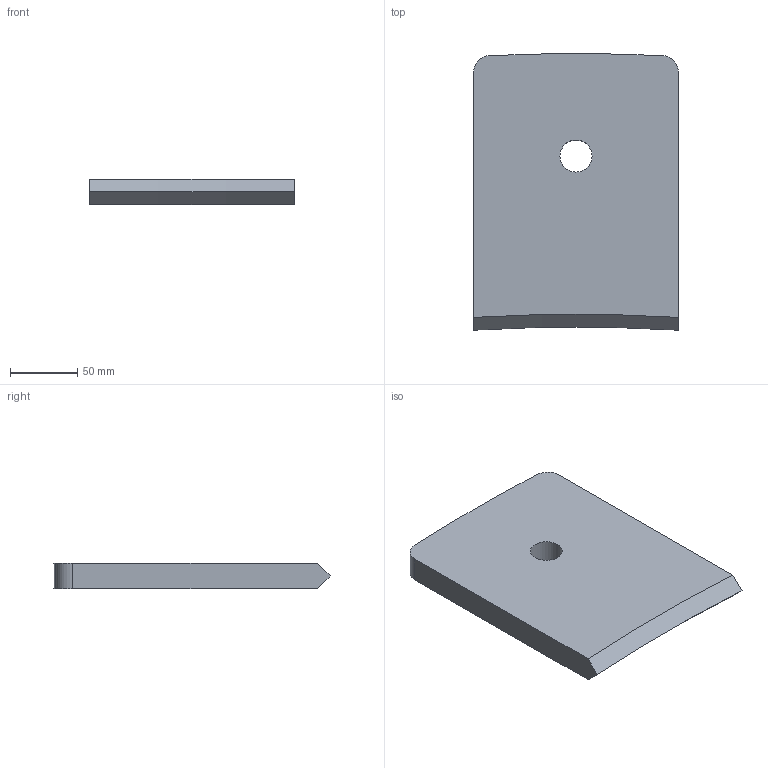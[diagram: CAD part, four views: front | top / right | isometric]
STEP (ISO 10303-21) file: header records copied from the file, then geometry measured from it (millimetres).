
FILE_DESCRIPTION (( 'STEP AP214' ), '1' );
FILE_NAME ('LF2 Lug.STEP', '2025-01-09T19:43:28', ( '' ), ( '' ), 'SwSTEP 2.0', 'SolidWorks 2024', '' );
FILE_SCHEMA (( 'AUTOMOTIVE_DESIGN' ));
Length unit declared in the file: inch
Products named in the file (1): LF2 Lug
Bounding box: 152.4 x 205.53 x 19.05 mm (x, y, z)
Volume: 566956.4 mm3; surface area: 73899 mm2
Topology: 1 solids, 1 shells, 10 faces, 24 edges, 16 vertices
Faces by surface type: cylinder 4, plane 4, cone 2
Full cylindrical faces by diameter (mm): 23.812 x1
Entity records: 329 total; most frequent: CARTESIAN_POINT 62, DIRECTION 52, ORIENTED_EDGE 46, EDGE_CURVE 23, AXIS2_PLACEMENT_3D 22, VERTEX_POINT 16, EDGE_LOOP 13, CIRCLE 11
